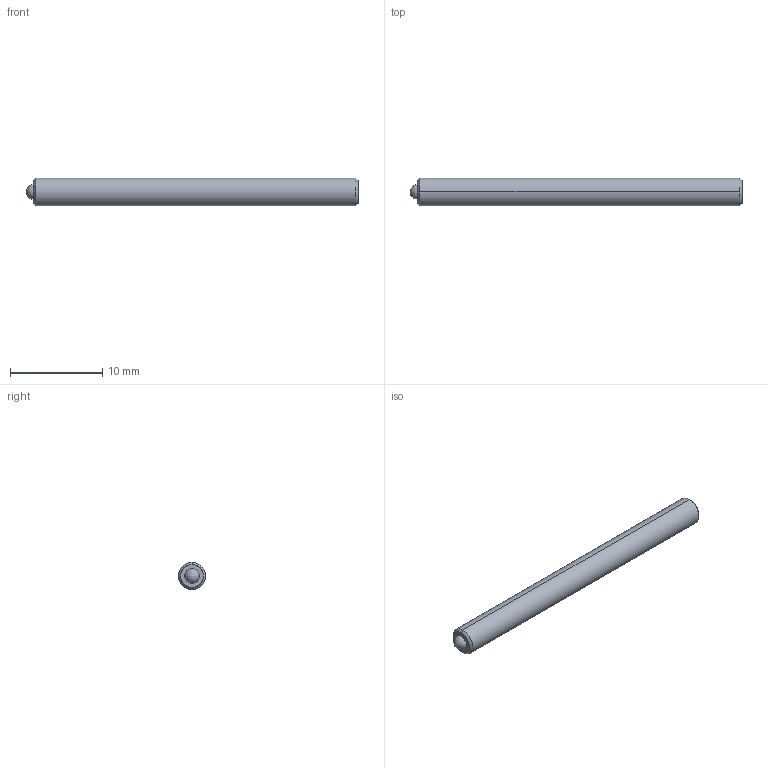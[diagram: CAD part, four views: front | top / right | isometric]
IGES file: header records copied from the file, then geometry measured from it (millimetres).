
Start section: SolidWorks IGES file using analytic representation for surfaces
Global section: file name: C:\Users\workpc\Desktop\KMA Solidworks\TS3-25 Series\TS3-25-36.IGS; native system: SolidWorks 2013; preprocessor: SolidWorks 2013; author: workpc; date: 130213.111551; units: millimetre
Bounding box: 36 x 3 x 3 mm (x, y, z)
Surface area: 365.4 mm2 (no closed solid volume)
Topology: 0 solids, 0 shells, 20 faces, 172 edges, 168 vertices
Faces by surface type: revolution 10, bspline 10
